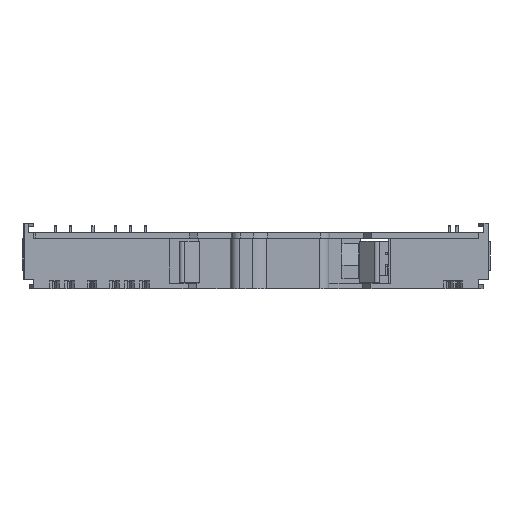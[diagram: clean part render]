
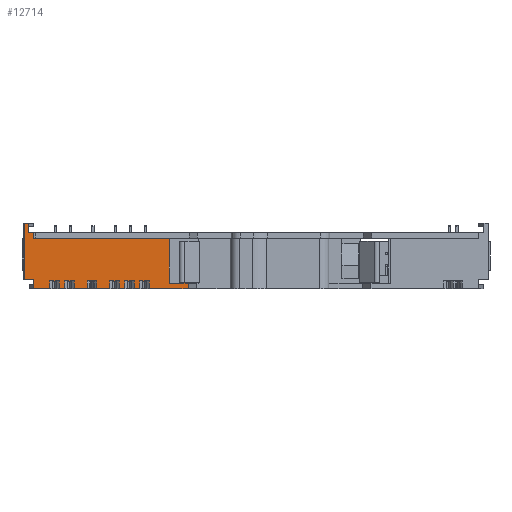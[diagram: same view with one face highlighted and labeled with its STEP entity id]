
A CAD part, front view. The second image highlights one B-rep face of the part: STEP entity #12714.
In plain terms, the highlighted planar face has unit normal (0.001, -1, 0).
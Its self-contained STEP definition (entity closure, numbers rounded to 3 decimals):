
#82=DIRECTION('',(1.,0.,0.));
#83=VECTOR('',#82,1.1);
#84=CARTESIAN_POINT('',(0.9,0.,0.));
#85=LINE('',#84,#83);
#119=DIRECTION('',(0.,0.,1.));
#120=VECTOR('',#119,2.);
#121=CARTESIAN_POINT('',(0.9,0.,0.));
#122=LINE('',#121,#120);
#163=DIRECTION('',(0.,0.,-1.));
#164=VECTOR('',#163,1.7);
#165=CARTESIAN_POINT('',(26.7,0.,-10.3));
#166=LINE('',#165,#164);
#167=DIRECTION('',(0.,0.,1.));
#168=VECTOR('',#167,1.7);
#169=CARTESIAN_POINT('',(24.7,0.,-12.));
#170=LINE('',#169,#168);
#171=DIRECTION('',(0.,0.,-1.));
#172=VECTOR('',#171,1.7);
#173=CARTESIAN_POINT('',(23.5,0.,-10.3));
#174=LINE('',#173,#172);
#175=DIRECTION('',(0.,0.,1.));
#176=VECTOR('',#175,1.7);
#177=CARTESIAN_POINT('',(21.5,0.,-12.));
#178=LINE('',#177,#176);
#179=DIRECTION('',(0.,0.,-1.));
#180=VECTOR('',#179,1.7);
#181=CARTESIAN_POINT('',(20.3,0.,-10.3));
#182=LINE('',#181,#180);
#183=DIRECTION('',(0.,0.,1.));
#184=VECTOR('',#183,1.7);
#185=CARTESIAN_POINT('',(18.3,0.,-12.));
#186=LINE('',#185,#184);
#187=DIRECTION('',(0.,0.,-1.));
#188=VECTOR('',#187,1.7);
#189=CARTESIAN_POINT('',(15.5,0.,-10.3));
#190=LINE('',#189,#188);
#191=DIRECTION('',(0.,0.,1.));
#192=VECTOR('',#191,1.7);
#193=CARTESIAN_POINT('',(13.5,0.,-12.));
#194=LINE('',#193,#192);
#195=DIRECTION('',(0.,0.,-1.));
#196=VECTOR('',#195,1.7);
#197=CARTESIAN_POINT('',(10.7,0.,-10.3));
#198=LINE('',#197,#196);
#199=DIRECTION('',(0.,0.,1.));
#200=VECTOR('',#199,1.7);
#201=CARTESIAN_POINT('',(8.7,0.,-12.));
#202=LINE('',#201,#200);
#203=DIRECTION('',(0.,0.,-1.));
#204=VECTOR('',#203,1.7);
#205=CARTESIAN_POINT('',(7.5,0.,-10.3));
#206=LINE('',#205,#204);
#207=DIRECTION('',(0.,0.,1.));
#208=VECTOR('',#207,1.7);
#209=CARTESIAN_POINT('',(5.5,0.,-12.));
#210=LINE('',#209,#208);
#211=DIRECTION('',(0.,0.,-1.));
#212=VECTOR('',#211,0.9);
#213=CARTESIAN_POINT('',(2.,0.,-11.1));
#214=LINE('',#213,#212);
#215=DIRECTION('',(0.,0.,-1.));
#216=VECTOR('',#215,1.1);
#217=CARTESIAN_POINT('',(2.,0.,-10.));
#218=LINE('',#217,#216);
#219=DIRECTION('',(1.,0.,0.));
#220=VECTOR('',#219,2.);
#221=CARTESIAN_POINT('',(0.,0.,-10.));
#222=LINE('',#221,#220);
#223=DIRECTION('',(0.,0.,1.));
#224=VECTOR('',#223,12.);
#225=CARTESIAN_POINT('',(0.,0.,-10.));
#226=LINE('',#225,#224);
#227=DIRECTION('',(0.,0.,-1.));
#228=VECTOR('',#227,1.3);
#229=CARTESIAN_POINT('',(2.,0.,0.));
#230=LINE('',#229,#228);
#231=DIRECTION('',(1.,0.,0.));
#232=VECTOR('',#231,29.);
#233=CARTESIAN_POINT('',(2.,0.,-1.3));
#234=LINE('',#233,#232);
#235=DIRECTION('',(0.,0.,1.));
#236=VECTOR('',#235,9.5);
#237=CARTESIAN_POINT('',(31.,0.,-10.8));
#238=LINE('',#237,#236);
#239=DIRECTION('',(0.,0.,1.));
#240=VECTOR('',#239,1.2);
#241=CARTESIAN_POINT('',(35.,0.,-12.));
#242=LINE('',#241,#240);
#1173=DIRECTION('',(1.,0.,0.));
#1174=VECTOR('',#1173,8.3);
#1175=CARTESIAN_POINT('',(26.7,0.,-12.));
#1176=LINE('',#1175,#1174);
#1336=DIRECTION('',(1.,0.,0.));
#1337=VECTOR('',#1336,1.2);
#1338=CARTESIAN_POINT('',(23.5,0.,-12.));
#1339=LINE('',#1338,#1337);
#1400=DIRECTION('',(1.,0.,0.));
#1401=VECTOR('',#1400,1.2);
#1402=CARTESIAN_POINT('',(20.3,0.,-12.));
#1403=LINE('',#1402,#1401);
#1464=DIRECTION('',(1.,0.,0.));
#1465=VECTOR('',#1464,2.8);
#1466=CARTESIAN_POINT('',(15.5,0.,-12.));
#1467=LINE('',#1466,#1465);
#1528=DIRECTION('',(1.,0.,0.));
#1529=VECTOR('',#1528,2.8);
#1530=CARTESIAN_POINT('',(10.7,0.,-12.));
#1531=LINE('',#1530,#1529);
#1592=DIRECTION('',(1.,0.,0.));
#1593=VECTOR('',#1592,1.2);
#1594=CARTESIAN_POINT('',(7.5,0.,-12.));
#1595=LINE('',#1594,#1593);
#1640=DIRECTION('',(1.,0.,0.));
#1641=VECTOR('',#1640,3.5);
#1642=CARTESIAN_POINT('',(2.,0.,-12.));
#1643=LINE('',#1642,#1641);
#5344=DIRECTION('',(1.,0.,0.));
#5345=VECTOR('',#5344,2.);
#5346=CARTESIAN_POINT('',(24.7,0.,-10.3));
#5347=LINE('',#5346,#5345);
#5584=DIRECTION('',(1.,0.,0.));
#5585=VECTOR('',#5584,2.);
#5586=CARTESIAN_POINT('',(21.5,0.,-10.3));
#5587=LINE('',#5586,#5585);
#5820=DIRECTION('',(1.,0.,0.));
#5821=VECTOR('',#5820,2.);
#5822=CARTESIAN_POINT('',(18.3,0.,-10.3));
#5823=LINE('',#5822,#5821);
#6050=DIRECTION('',(1.,0.,0.));
#6051=VECTOR('',#6050,2.);
#6052=CARTESIAN_POINT('',(13.5,0.,-10.3));
#6053=LINE('',#6052,#6051);
#6290=DIRECTION('',(1.,0.,0.));
#6291=VECTOR('',#6290,2.);
#6292=CARTESIAN_POINT('',(8.7,0.,-10.3));
#6293=LINE('',#6292,#6291);
#6498=DIRECTION('',(1.,0.,0.));
#6499=VECTOR('',#6498,2.);
#6500=CARTESIAN_POINT('',(5.5,0.,-10.3));
#6501=LINE('',#6500,#6499);
#6819=DIRECTION('',(1.,0.,0.));
#6820=VECTOR('',#6819,0.9);
#6821=CARTESIAN_POINT('',(0.,0.,2.));
#6822=LINE('',#6821,#6820);
#8434=DIRECTION('',(1.,0.,0.));
#8435=VECTOR('',#8434,4.);
#8436=CARTESIAN_POINT('',(31.,0.,-10.8));
#8437=LINE('',#8436,#8435);
#9601=CARTESIAN_POINT('',(2.,0.,0.));
#9602=CARTESIAN_POINT('',(2.,0.,-1.3));
#9603=VERTEX_POINT('',#9601);
#9604=VERTEX_POINT('',#9602);
#9613=CARTESIAN_POINT('',(31.,0.,-1.3));
#9614=VERTEX_POINT('',#9613);
#9698=CARTESIAN_POINT('',(31.,0.,-10.8));
#9700=VERTEX_POINT('',#9698);
#9781=CARTESIAN_POINT('',(35.,0.,-12.));
#9782=VERTEX_POINT('',#9781);
#9785=CARTESIAN_POINT('',(35.,0.,-10.8));
#9786=VERTEX_POINT('',#9785);
#10859=CARTESIAN_POINT('',(0.,0.,-10.));
#10860=CARTESIAN_POINT('',(2.,0.,-10.));
#10861=VERTEX_POINT('',#10859);
#10862=VERTEX_POINT('',#10860);
#10871=CARTESIAN_POINT('',(0.9,0.,0.));
#10873=VERTEX_POINT('',#10871);
#10883=CARTESIAN_POINT('',(0.,0.,2.));
#10884=CARTESIAN_POINT('',(0.9,0.,2.));
#10885=VERTEX_POINT('',#10883);
#10886=VERTEX_POINT('',#10884);
#10939=CARTESIAN_POINT('',(2.,0.,-12.));
#10941=VERTEX_POINT('',#10939);
#10945=CARTESIAN_POINT('',(2.,0.,-11.1));
#10946=VERTEX_POINT('',#10945);
#11253=CARTESIAN_POINT('',(26.7,0.,-12.));
#11255=VERTEX_POINT('',#11253);
#11259=CARTESIAN_POINT('',(26.7,0.,-10.3));
#11260=VERTEX_POINT('',#11259);
#11265=CARTESIAN_POINT('',(24.7,0.,-12.));
#11266=VERTEX_POINT('',#11265);
#11267=CARTESIAN_POINT('',(24.7,0.,-10.3));
#11268=VERTEX_POINT('',#11267);
#11269=CARTESIAN_POINT('',(23.5,0.,-12.));
#11271=VERTEX_POINT('',#11269);
#11275=CARTESIAN_POINT('',(23.5,0.,-10.3));
#11276=VERTEX_POINT('',#11275);
#11281=CARTESIAN_POINT('',(21.5,0.,-12.));
#11282=VERTEX_POINT('',#11281);
#11283=CARTESIAN_POINT('',(21.5,0.,-10.3));
#11284=VERTEX_POINT('',#11283);
#11285=CARTESIAN_POINT('',(20.3,0.,-12.));
#11287=VERTEX_POINT('',#11285);
#11291=CARTESIAN_POINT('',(20.3,0.,-10.3));
#11292=VERTEX_POINT('',#11291);
#11297=CARTESIAN_POINT('',(18.3,0.,-12.));
#11298=VERTEX_POINT('',#11297);
#11299=CARTESIAN_POINT('',(18.3,0.,-10.3));
#11300=VERTEX_POINT('',#11299);
#11301=CARTESIAN_POINT('',(15.5,0.,-12.));
#11303=VERTEX_POINT('',#11301);
#11307=CARTESIAN_POINT('',(15.5,0.,-10.3));
#11308=VERTEX_POINT('',#11307);
#11313=CARTESIAN_POINT('',(13.5,0.,-12.));
#11314=VERTEX_POINT('',#11313);
#11315=CARTESIAN_POINT('',(13.5,0.,-10.3));
#11316=VERTEX_POINT('',#11315);
#11317=CARTESIAN_POINT('',(10.7,0.,-12.));
#11319=VERTEX_POINT('',#11317);
#11323=CARTESIAN_POINT('',(10.7,0.,-10.3));
#11324=VERTEX_POINT('',#11323);
#11329=CARTESIAN_POINT('',(8.7,0.,-12.));
#11330=VERTEX_POINT('',#11329);
#11331=CARTESIAN_POINT('',(8.7,0.,-10.3));
#11332=VERTEX_POINT('',#11331);
#11337=CARTESIAN_POINT('',(5.5,0.,-12.));
#11338=VERTEX_POINT('',#11337);
#11339=CARTESIAN_POINT('',(5.5,0.,-10.3));
#11340=VERTEX_POINT('',#11339);
#11341=CARTESIAN_POINT('',(7.5,0.,-12.));
#11343=VERTEX_POINT('',#11341);
#11347=CARTESIAN_POINT('',(7.5,0.,-10.3));
#11348=VERTEX_POINT('',#11347);
#12635=CARTESIAN_POINT('',(0.,0.,0.));
#12636=DIRECTION('',(0.,-1.,0.));
#12637=DIRECTION('',(1.,0.,0.));
#12638=AXIS2_PLACEMENT_3D('',#12635,#12636,#12637);
#12639=PLANE('',#12638);
#12641=ORIENTED_EDGE('',*,*,#12640,.F.);
#12643=ORIENTED_EDGE('',*,*,#12642,.F.);
#12645=ORIENTED_EDGE('',*,*,#12644,.F.);
#12647=ORIENTED_EDGE('',*,*,#12646,.F.);
#12649=ORIENTED_EDGE('',*,*,#12648,.F.);
#12651=ORIENTED_EDGE('',*,*,#12650,.F.);
#12653=ORIENTED_EDGE('',*,*,#12652,.F.);
#12655=ORIENTED_EDGE('',*,*,#12654,.F.);
#12657=ORIENTED_EDGE('',*,*,#12656,.F.);
#12659=ORIENTED_EDGE('',*,*,#12658,.F.);
#12661=ORIENTED_EDGE('',*,*,#12660,.F.);
#12663=ORIENTED_EDGE('',*,*,#12662,.F.);
#12665=ORIENTED_EDGE('',*,*,#12664,.F.);
#12667=ORIENTED_EDGE('',*,*,#12666,.F.);
#12669=ORIENTED_EDGE('',*,*,#12668,.F.);
#12671=ORIENTED_EDGE('',*,*,#12670,.F.);
#12673=ORIENTED_EDGE('',*,*,#12672,.F.);
#12675=ORIENTED_EDGE('',*,*,#12674,.F.);
#12677=ORIENTED_EDGE('',*,*,#12676,.F.);
#12679=ORIENTED_EDGE('',*,*,#12678,.F.);
#12681=ORIENTED_EDGE('',*,*,#12680,.F.);
#12683=ORIENTED_EDGE('',*,*,#12682,.F.);
#12685=ORIENTED_EDGE('',*,*,#12684,.F.);
#12687=ORIENTED_EDGE('',*,*,#12686,.F.);
#12689=ORIENTED_EDGE('',*,*,#12688,.F.);
#12691=ORIENTED_EDGE('',*,*,#12690,.F.);
#12693=ORIENTED_EDGE('',*,*,#12692,.F.);
#12695=ORIENTED_EDGE('',*,*,#12694,.T.);
#12697=ORIENTED_EDGE('',*,*,#12696,.T.);
#12698=ORIENTED_EDGE('',*,*,#12578,.F.);
#12699=ORIENTED_EDGE('',*,*,#12542,.T.);
#12701=ORIENTED_EDGE('',*,*,#12700,.T.);
#12703=ORIENTED_EDGE('',*,*,#12702,.T.);
#12705=ORIENTED_EDGE('',*,*,#12704,.F.);
#12707=ORIENTED_EDGE('',*,*,#12706,.T.);
#12709=ORIENTED_EDGE('',*,*,#12708,.F.);
#12711=ORIENTED_EDGE('',*,*,#12710,.F.);
#12712=EDGE_LOOP('',(#12641,#12643,#12645,#12647,#12649,#12651,#12653,#12655,
#12657,#12659,#12661,#12663,#12665,#12667,#12669,#12671,#12673,#12675,#12677,
#12679,#12681,#12683,#12685,#12687,#12689,#12691,#12693,#12695,#12697,#12698,
#12699,#12701,#12703,#12705,#12707,#12709,#12711));
#12713=FACE_OUTER_BOUND('',#12712,.F.);
#12714=ADVANCED_FACE('',(#12713),#12639,.T.);
#12542=EDGE_CURVE('',#10873,#9603,#85,.T.);
#12578=EDGE_CURVE('',#10873,#10886,#122,.T.);
#12640=EDGE_CURVE('',#11260,#11255,#166,.T.);
#12642=EDGE_CURVE('',#11268,#11260,#5347,.T.);
#12644=EDGE_CURVE('',#11266,#11268,#170,.T.);
#12646=EDGE_CURVE('',#11271,#11266,#1339,.T.);
#12648=EDGE_CURVE('',#11276,#11271,#174,.T.);
#12650=EDGE_CURVE('',#11284,#11276,#5587,.T.);
#12652=EDGE_CURVE('',#11282,#11284,#178,.T.);
#12654=EDGE_CURVE('',#11287,#11282,#1403,.T.);
#12656=EDGE_CURVE('',#11292,#11287,#182,.T.);
#12658=EDGE_CURVE('',#11300,#11292,#5823,.T.);
#12660=EDGE_CURVE('',#11298,#11300,#186,.T.);
#12662=EDGE_CURVE('',#11303,#11298,#1467,.T.);
#12664=EDGE_CURVE('',#11308,#11303,#190,.T.);
#12666=EDGE_CURVE('',#11316,#11308,#6053,.T.);
#12668=EDGE_CURVE('',#11314,#11316,#194,.T.);
#12670=EDGE_CURVE('',#11319,#11314,#1531,.T.);
#12672=EDGE_CURVE('',#11324,#11319,#198,.T.);
#12674=EDGE_CURVE('',#11332,#11324,#6293,.T.);
#12676=EDGE_CURVE('',#11330,#11332,#202,.T.);
#12678=EDGE_CURVE('',#11343,#11330,#1595,.T.);
#12680=EDGE_CURVE('',#11348,#11343,#206,.T.);
#12682=EDGE_CURVE('',#11340,#11348,#6501,.T.);
#12684=EDGE_CURVE('',#11338,#11340,#210,.T.);
#12686=EDGE_CURVE('',#10941,#11338,#1643,.T.);
#12688=EDGE_CURVE('',#10946,#10941,#214,.T.);
#12690=EDGE_CURVE('',#10862,#10946,#218,.T.);
#12692=EDGE_CURVE('',#10861,#10862,#222,.T.);
#12694=EDGE_CURVE('',#10861,#10885,#226,.T.);
#12696=EDGE_CURVE('',#10885,#10886,#6822,.T.);
#12700=EDGE_CURVE('',#9603,#9604,#230,.T.);
#12702=EDGE_CURVE('',#9604,#9614,#234,.T.);
#12704=EDGE_CURVE('',#9700,#9614,#238,.T.);
#12706=EDGE_CURVE('',#9700,#9786,#8437,.T.);
#12708=EDGE_CURVE('',#9782,#9786,#242,.T.);
#12710=EDGE_CURVE('',#11255,#9782,#1176,.T.);
